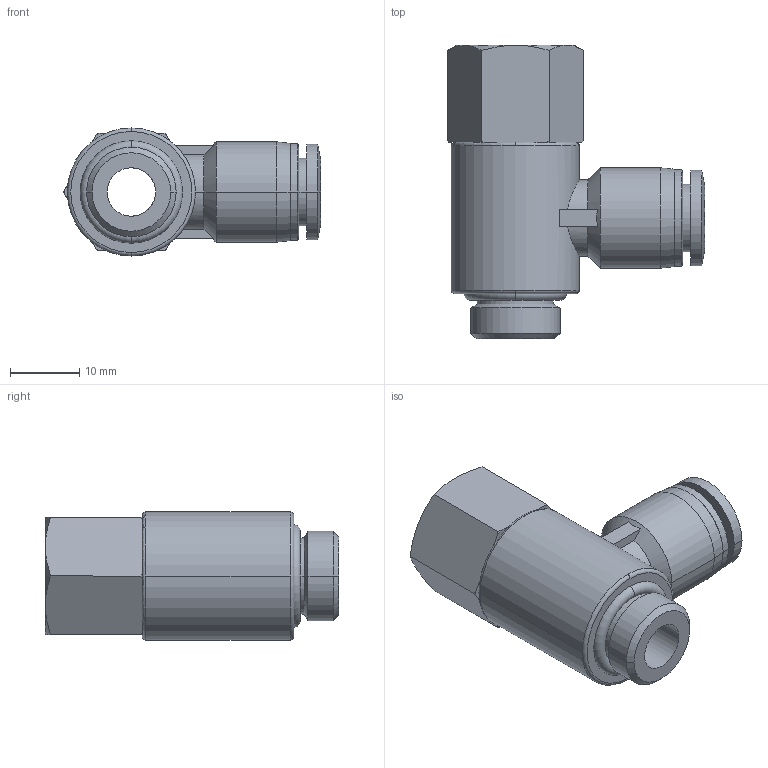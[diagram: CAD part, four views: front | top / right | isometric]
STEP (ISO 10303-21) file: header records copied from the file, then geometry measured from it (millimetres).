
FILE_DESCRIPTION (( 'STEP AP203' ), '1' );
FILE_NAME ('FVF08-02.STEP', '2020-05-11T14:29:21', ( '' ), ( '' ), 'SwSTEP 2.0', 'SolidWorks 2019', '' );
FILE_SCHEMA (( 'CONFIG_CONTROL_DESIGN' ));
Length unit declared in the file: millimetre
Products named in the file (1): FVF08-02
Bounding box: 37.16 x 42.4 x 18.5 mm (x, y, z)
Volume: 8967.8 mm3; surface area: 5614.3 mm2
Topology: 1 solids, 1 shells, 92 faces, 219 edges, 134 vertices
Faces by surface type: plane 33, cone 26, cylinder 25, torus 6, bspline 2
Entity records: 2902 total; most frequent: CARTESIAN_POINT 726, DIRECTION 467, ORIENTED_EDGE 438, EDGE_CURVE 219, AXIS2_PLACEMENT_3D 197, VERTEX_POINT 134, CIRCLE 106, EDGE_LOOP 101
